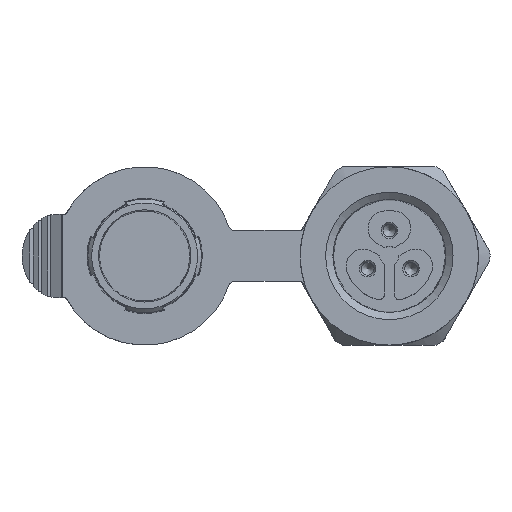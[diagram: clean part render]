
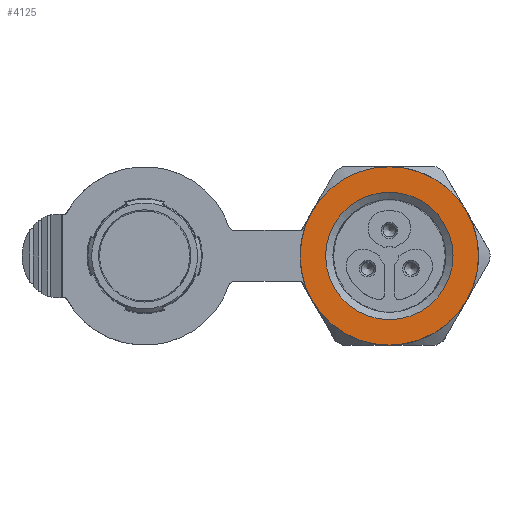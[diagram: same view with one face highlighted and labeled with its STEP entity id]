
A CAD part, top view. The second image highlights one B-rep face of the part: STEP entity #4125.
In plain terms, the highlighted planar face has unit normal (0, 0, 1).
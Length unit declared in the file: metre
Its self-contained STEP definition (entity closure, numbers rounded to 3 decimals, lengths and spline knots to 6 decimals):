
#634=PLANE('',#4516);
#1368=ORIENTED_EDGE('',*,*,#2376,.F.);
#1369=ORIENTED_EDGE('',*,*,#2375,.F.);
#2375=EDGE_CURVE('',#2902,#2902,#3208,.T.);
#2376=EDGE_CURVE('',#2903,#2903,#3209,.T.);
#2902=VERTEX_POINT('',#7561);
#2903=VERTEX_POINT('',#7564);
#3208=CIRCLE('',#4515,0.005);
#3209=CIRCLE('',#4517,0.007);
#3484=EDGE_LOOP('',(#1368));
#3485=EDGE_LOOP('',(#1369));
#3787=FACE_BOUND('',#3484,.T.);
#3788=FACE_BOUND('',#3485,.T.);
#4125=ADVANCED_FACE('',(#3787,#3788),#634,.T.);
#4515=AXIS2_PLACEMENT_3D('',#7560,#5429,#5430);
#4516=AXIS2_PLACEMENT_3D('',#7562,#5431,#5432);
#4517=AXIS2_PLACEMENT_3D('',#7563,#5433,#5434);
#5429=DIRECTION('',(0.,0.,1.));
#5430=DIRECTION('',(-1.,0.,0.));
#5431=DIRECTION('',(0.,0.,1.));
#5432=DIRECTION('',(1.,0.,0.));
#5433=DIRECTION('',(0.,0.,-1.));
#5434=DIRECTION('',(-1.,0.,0.));
#7560=CARTESIAN_POINT('',(0.,0.,0.));
#7561=CARTESIAN_POINT('',(-0.005,0.,0.));
#7562=CARTESIAN_POINT('',(0.,0.,0.));
#7563=CARTESIAN_POINT('',(0.,0.,0.));
#7564=CARTESIAN_POINT('',(-0.007,0.,0.));
